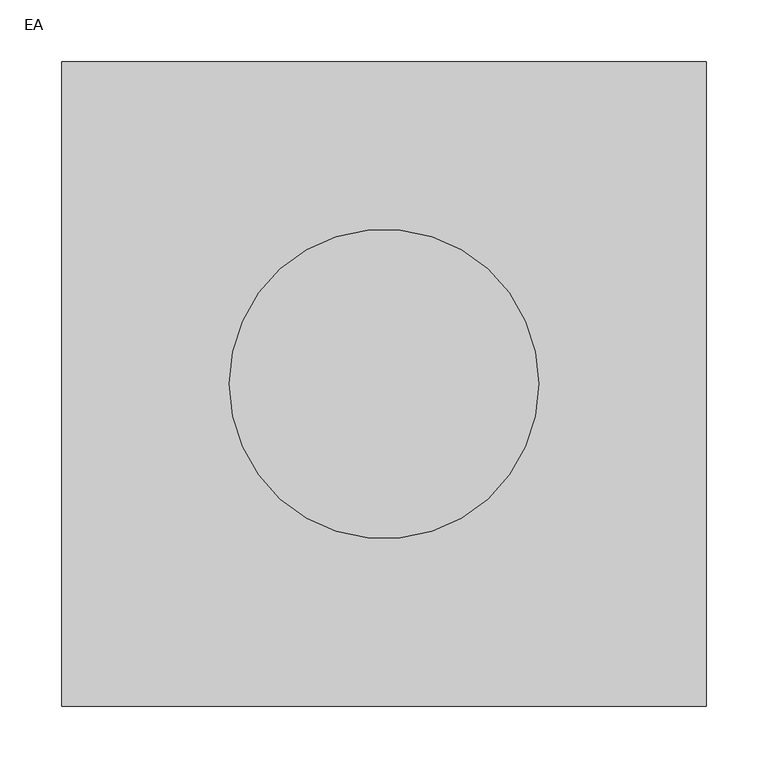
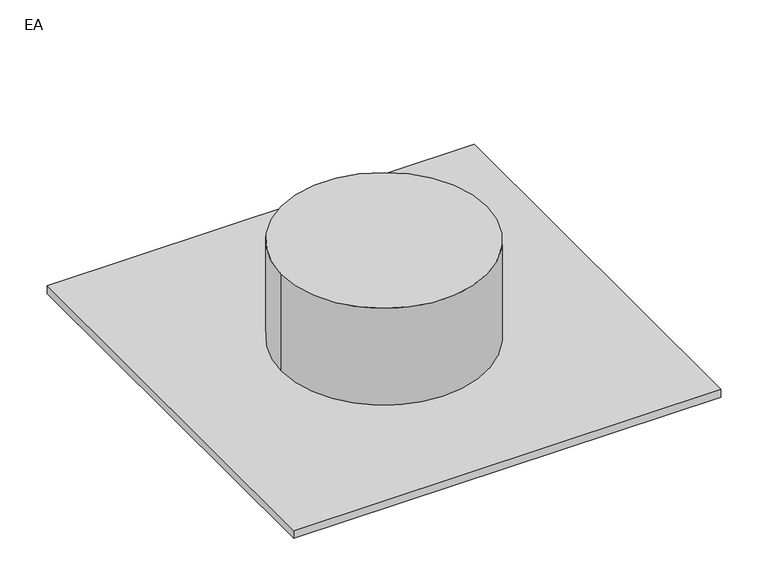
"""IFC4 building model written with IfcOpenShell, lengths in millimetres: air terminal geometry, 031_シーリングディフューザー : EA."""

from ifc_helpers import new_model, si_unit, point, frame, origin, origin_with_axes, origin_2d, place, context, project, spatial, polyline, circle_curve, trimmed, segment, composite_curve, outline, extrude, source, transform, mapped, element, save


def ea_1543435b(model_context):
    return source(origin(), model_context, "Body", "SweptSolid", [
        extrude(outline(polyline([(260.0, 260.0), (260.0, -260.0), (-260.0, -260.0), (-260.0, 260.0), (260.0, 260.0)])), frame((0.0, 0.0, -10.0), z_axis=(0.0, 0.0, 1.0), x_axis=(1.0, 0.0, 0.0)), (0.0, 0.0, 1.0), 10.0),
        extrude(outline(composite_curve([segment(trimmed(circle_curve(origin_2d(), 125.0), [point((-125.0, 0.0))], [point((125.0, 0.0))], False, "CARTESIAN"), True, "CONTINUOUS"), segment(trimmed(circle_curve(origin_2d(), 125.0), [point((125.0, 0.0))], [point((-125.0, 0.0))], False, "CARTESIAN"), True, "CONTINUOUS")], self_intersect=False)), origin_with_axes(), (0.0, 0.0, 1.0), 125.0),
    ])


if __name__ == "__main__":
    model = new_model("IFC4")
    model_context = context("Model", 3, world=origin())
    ifc_project = project(units=[si_unit("LENGTHUNIT", "METRE", prefix="MILLI")], contexts=[model_context])
    site = spatial("IfcSite", under=ifc_project)
    building = spatial("IfcBuilding", under=site)
    placement = place(None, origin())
    ea_shape = ea_1543435b(model_context)
    element("IfcAirTerminal", 1, ObjectType="031_シーリングディフューザー : EA", at=placement, inside=building, context=model_context, shape_type="MappedRepresentation", body=[
        mapped(ea_shape, transform((0.0, 0.0, 0.0), x_axis=(1.0, 0.0, 0.0), y_axis=(0.0, 1.0, 0.0), z_axis=(0.0, 0.0, 1.0))),
    ])
    save(model, "model.ifc")
